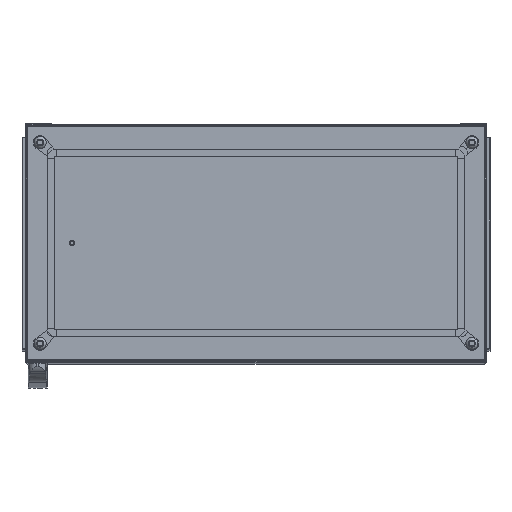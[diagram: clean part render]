
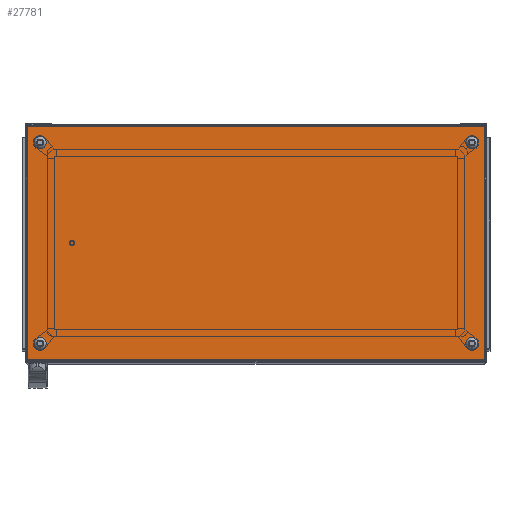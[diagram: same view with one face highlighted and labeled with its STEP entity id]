
A CAD part, top view. The second image highlights one B-rep face of the part: STEP entity #27781.
In plain terms, the highlighted planar face has unit normal (0, 0, 1).
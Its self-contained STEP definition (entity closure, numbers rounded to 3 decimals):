
#1355=CIRCLE('',#29820,6.);
#1356=CIRCLE('',#29821,6.);
#1357=CIRCLE('',#29822,6.);
#1358=CIRCLE('',#29823,6.);
#5167=ORIENTED_EDGE('',*,*,#11801,.F.);
#5168=ORIENTED_EDGE('',*,*,#11802,.F.);
#5169=ORIENTED_EDGE('',*,*,#11803,.F.);
#5170=ORIENTED_EDGE('',*,*,#11804,.F.);
#5171=ORIENTED_EDGE('',*,*,#11790,.T.);
#5172=ORIENTED_EDGE('',*,*,#11798,.T.);
#5173=ORIENTED_EDGE('',*,*,#11761,.F.);
#5174=ORIENTED_EDGE('',*,*,#11805,.F.);
#11761=EDGE_CURVE('',#15313,#15314,#18089,.T.);
#11790=EDGE_CURVE('',#15335,#15334,#18095,.T.);
#11798=EDGE_CURVE('',#15334,#15314,#18100,.T.);
#11801=EDGE_CURVE('',#15336,#15336,#1355,.T.);
#11802=EDGE_CURVE('',#15337,#15337,#1356,.T.);
#11803=EDGE_CURVE('',#15338,#15338,#1357,.T.);
#11804=EDGE_CURVE('',#15339,#15339,#1358,.T.);
#11805=EDGE_CURVE('',#15335,#15313,#18103,.T.);
#15313=VERTEX_POINT('',#43309);
#15314=VERTEX_POINT('',#43311);
#15334=VERTEX_POINT('',#43385);
#15335=VERTEX_POINT('',#43387);
#15336=VERTEX_POINT('',#43404);
#15337=VERTEX_POINT('',#43406);
#15338=VERTEX_POINT('',#43408);
#15339=VERTEX_POINT('',#43410);
#18089=LINE('',#43310,#20498);
#18095=LINE('',#43386,#20504);
#18100=LINE('',#43398,#20509);
#18103=LINE('',#43411,#20512);
#20498=VECTOR('',#34696,1000.);
#20504=VECTOR('',#34750,1000.);
#20509=VECTOR('',#34767,1000.);
#20512=VECTOR('',#34782,1000.);
#22605=EDGE_LOOP('',(#5167));
#22606=EDGE_LOOP('',(#5168));
#22607=EDGE_LOOP('',(#5169));
#22608=EDGE_LOOP('',(#5170));
#22609=EDGE_LOOP('',(#5171,#5172,#5173,#5174));
#24900=FACE_BOUND('',#22605,.T.);
#24901=FACE_BOUND('',#22606,.T.);
#24902=FACE_BOUND('',#22607,.T.);
#24903=FACE_BOUND('',#22608,.T.);
#24904=FACE_BOUND('',#22609,.T.);
#26852=PLANE('',#29819);
#27781=ADVANCED_FACE('',(#24900,#24901,#24902,#24903,#24904),#26852,.T.);
#29819=AXIS2_PLACEMENT_3D('',#43402,#34772,#34773);
#29820=AXIS2_PLACEMENT_3D('',#43403,#34774,#34775);
#29821=AXIS2_PLACEMENT_3D('',#43405,#34776,#34777);
#29822=AXIS2_PLACEMENT_3D('',#43407,#34778,#34779);
#29823=AXIS2_PLACEMENT_3D('',#43409,#34780,#34781);
#34696=DIRECTION('',(-1.,0.,0.));
#34750=DIRECTION('',(-1.,0.,0.));
#34767=DIRECTION('',(0.,-1.,0.));
#34772=DIRECTION('',(0.,0.,1.));
#34773=DIRECTION('',(1.,0.,0.));
#34774=DIRECTION('',(0.,0.,1.));
#34775=DIRECTION('',(1.,0.,0.));
#34776=DIRECTION('',(0.,0.,1.));
#34777=DIRECTION('',(1.,0.,0.));
#34778=DIRECTION('',(0.,0.,1.));
#34779=DIRECTION('',(1.,0.,0.));
#34780=DIRECTION('',(0.,0.,1.));
#34781=DIRECTION('',(1.,0.,0.));
#34782=DIRECTION('',(0.,-1.,0.));
#43309=CARTESIAN_POINT('',(396.5,-202.5,20.));
#43310=CARTESIAN_POINT('',(400.,-202.5,20.));
#43311=CARTESIAN_POINT('',(-396.5,-202.5,20.));
#43385=CARTESIAN_POINT('',(-396.5,202.5,20.));
#43386=CARTESIAN_POINT('',(400.,202.5,20.));
#43387=CARTESIAN_POINT('',(396.5,202.5,20.));
#43398=CARTESIAN_POINT('',(-396.5,205.5,20.));
#43402=CARTESIAN_POINT('',(-396.5,-202.5,20.));
#43403=CARTESIAN_POINT('',(374.5,-174.5,20.));
#43404=CARTESIAN_POINT('',(380.5,-174.5,20.));
#43405=CARTESIAN_POINT('',(-374.5,174.5,20.));
#43406=CARTESIAN_POINT('',(-368.5,174.5,20.));
#43407=CARTESIAN_POINT('',(374.5,174.5,20.));
#43408=CARTESIAN_POINT('',(380.5,174.5,20.));
#43409=CARTESIAN_POINT('',(-374.5,-174.5,20.));
#43410=CARTESIAN_POINT('',(-368.5,-174.5,20.));
#43411=CARTESIAN_POINT('',(396.5,205.5,20.));
